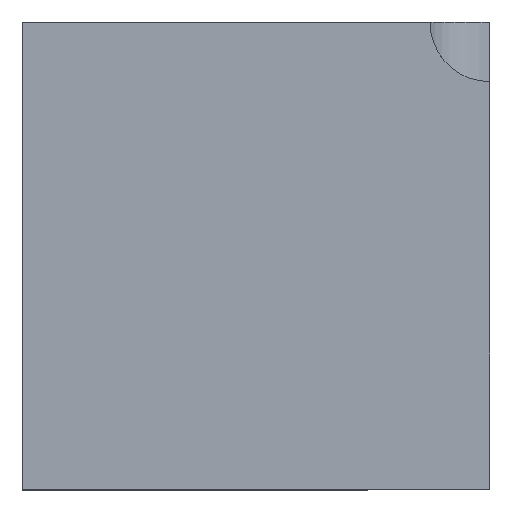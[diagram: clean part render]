
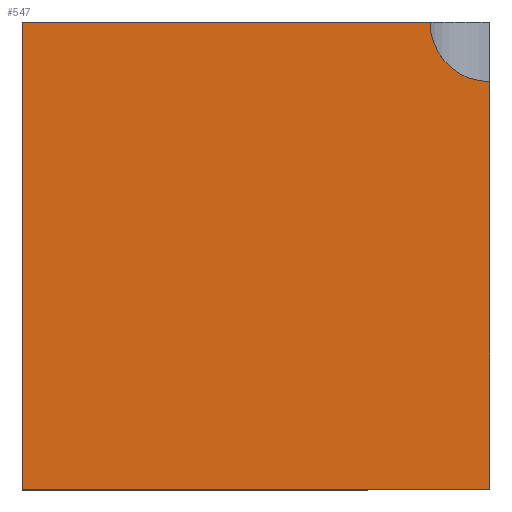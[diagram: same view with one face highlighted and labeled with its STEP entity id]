
A CAD part, top view. The second image highlights one B-rep face of the part: STEP entity #547.
In plain terms, the highlighted planar face has unit normal (0, 0, 1).
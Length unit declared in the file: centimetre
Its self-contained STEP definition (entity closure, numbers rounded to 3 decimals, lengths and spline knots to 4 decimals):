
#4 = AXIS2_PLACEMENT_3D ( 'NONE', #123, #474, #715 ) ;
#11 = EDGE_CURVE ( 'NONE', #297, #460, #291, .T. ) ;
#30 = LINE ( 'NONE', #311, #885 ) ;
#34 = VERTEX_POINT ( 'NONE', #278 ) ;
#53 = VECTOR ( 'NONE', #525, 100. ) ;
#57 = DIRECTION ( 'NONE',  ( 0., 0., 1. ) ) ;
#96 = ORIENTED_EDGE ( 'NONE', *, *, #340, .T. ) ;
#123 = CARTESIAN_POINT ( 'NONE',  ( 0., 0., 1000. ) ) ;
#171 = ORIENTED_EDGE ( 'NONE', *, *, #583, .F. ) ;
#236 = DIRECTION ( 'NONE',  ( 0., 1., 0. ) ) ;
#250 = VERTEX_POINT ( 'NONE', #654 ) ;
#278 = CARTESIAN_POINT ( 'NONE',  ( 0., 0., 1000. ) ) ;
#281 = EDGE_CURVE ( 'NONE', #250, #532, #679, .T. ) ;
#291 = LINE ( 'NONE', #568, #415 ) ;
#297 = VERTEX_POINT ( 'NONE', #507 ) ;
#311 = CARTESIAN_POINT ( 'NONE',  ( 0., 1000., 1000. ) ) ;
#337 = ORIENTED_EDGE ( 'NONE', *, *, #281, .T. ) ;
#340 = EDGE_CURVE ( 'NONE', #460, #34, #30, .T. ) ;
#359 = EDGE_CURVE ( 'NONE', #34, #250, #617, .T. ) ;
#361 = CARTESIAN_POINT ( 'NONE',  ( 1000., 1000., 1000. ) ) ;
#409 = CARTESIAN_POINT ( 'NONE',  ( 1000., 1000., 1000. ) ) ;
#415 = VECTOR ( 'NONE', #851, 100. ) ;
#435 = AXIS2_PLACEMENT_3D ( 'NONE', #409, #57, #633 ) ;
#460 = VERTEX_POINT ( 'NONE', #828 ) ;
#473 = FACE_OUTER_BOUND ( 'NONE', #812, .T. ) ;
#474 = DIRECTION ( 'NONE',  ( 0., 0., 1. ) ) ;
#480 = VECTOR ( 'NONE', #236, 100. ) ;
#507 = CARTESIAN_POINT ( 'NONE',  ( 872.3668, 1000., 1000. ) ) ;
#525 = DIRECTION ( 'NONE',  ( 1., 0., 0. ) ) ;
#532 = VERTEX_POINT ( 'NONE', #615 ) ;
#547 = ADVANCED_FACE ( 'NONE', ( #473 ), #765, .T. ) ;
#568 = CARTESIAN_POINT ( 'NONE',  ( 0., 1000., 1000. ) ) ;
#583 = EDGE_CURVE ( 'NONE', #297, #532, #848, .T. ) ;
#607 = DIRECTION ( 'NONE',  ( 0., -1., 0. ) ) ;
#615 = CARTESIAN_POINT ( 'NONE',  ( 1000., 872.3668, 1000. ) ) ;
#617 = LINE ( 'NONE', #892, #53 ) ;
#633 = DIRECTION ( 'NONE',  ( 1., 0., 0. ) ) ;
#637 = ORIENTED_EDGE ( 'NONE', *, *, #359, .T. ) ;
#654 = CARTESIAN_POINT ( 'NONE',  ( 1000., 0., 1000. ) ) ;
#679 = LINE ( 'NONE', #361, #480 ) ;
#715 = DIRECTION ( 'NONE',  ( 1., 0., 0. ) ) ;
#751 = ORIENTED_EDGE ( 'NONE', *, *, #11, .T. ) ;
#765 = PLANE ( 'NONE',  #4 ) ;
#812 = EDGE_LOOP ( 'NONE', ( #171, #751, #96, #637, #337 ) ) ;
#828 = CARTESIAN_POINT ( 'NONE',  ( 0., 1000., 1000. ) ) ;
#848 = CIRCLE ( 'NONE', #435, 127.6332 ) ;
#851 = DIRECTION ( 'NONE',  ( -1., 0., 0. ) ) ;
#885 = VECTOR ( 'NONE', #607, 100. ) ;
#892 = CARTESIAN_POINT ( 'NONE',  ( 0., 0., 1000. ) ) ;
